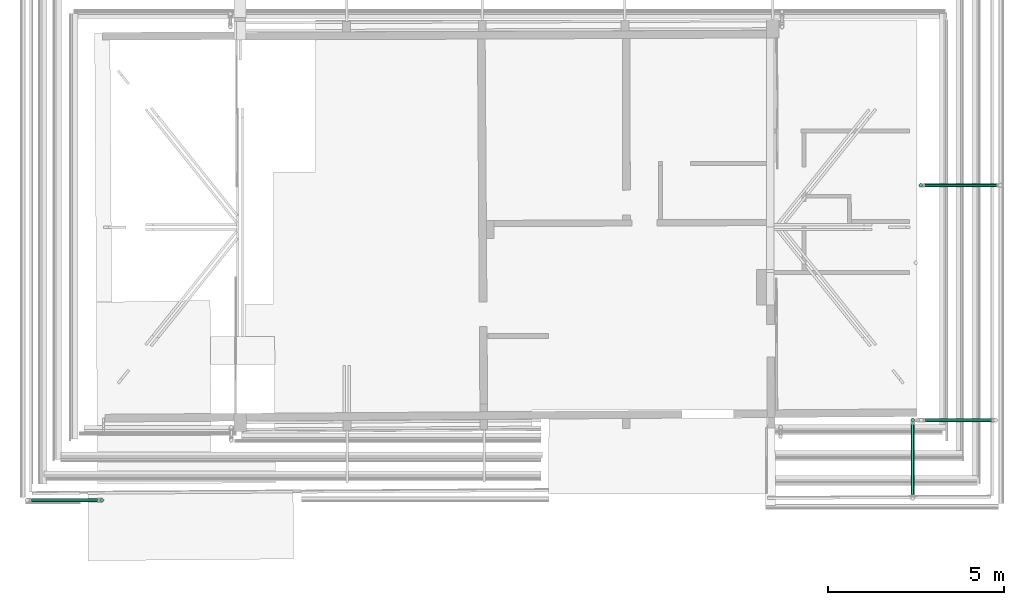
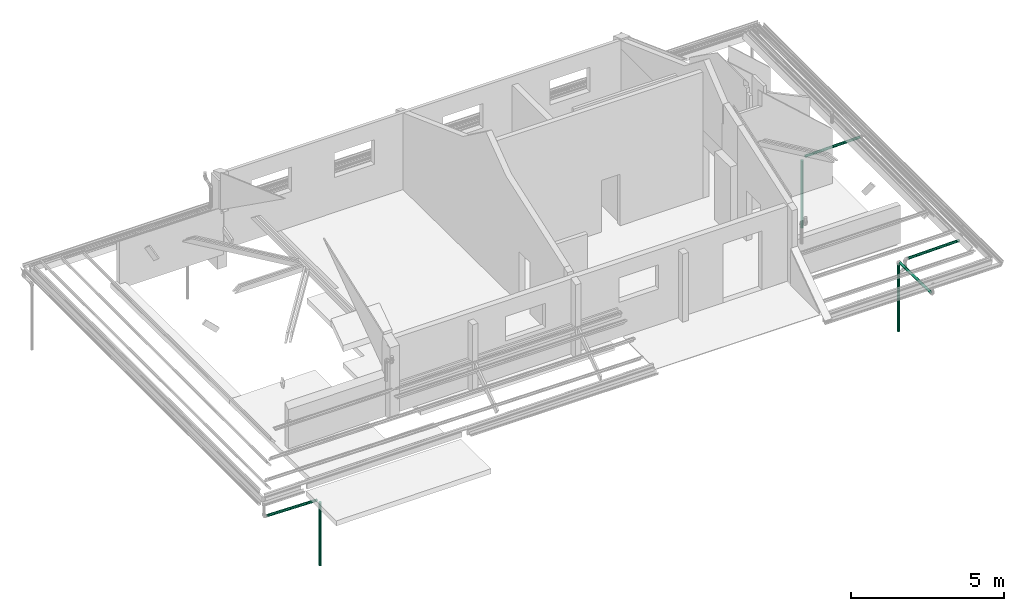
# One storey, part 10 of 15: 7 flow segments.
"""IFC2X3 building model written with IfcOpenShell, lengths in centimetres."""

from ifc_helpers import new_model, entity, si_unit, converted_unit, direction, frame, frame_2d, origin, origin_2d_with_axis, place, context, subcontext, project, spatial, circle, extrude, type_object, element, save


model = new_model("IFC2X3")

# Units and contexts
model_context = context("Model", 3, precision=0.001, world=frame((0.0, 0.0, 13090.0)), true_north=direction((6.123233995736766e-17, 1.0)))
body_context = subcontext(model_context, "Body", "Model", "MODEL_VIEW")
ifc_project = project(units=[si_unit("LENGTHUNIT", "METRE", prefix="CENTI"), si_unit("AREAUNIT", "SQUARE_METRE"), si_unit("VOLUMEUNIT", "CUBIC_METRE"), converted_unit("PLANEANGLEUNIT", "DEGREE", entity("IfcPlaneAngleMeasure", 0.017453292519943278), si_unit("PLANEANGLEUNIT", "RADIAN"), dimensions=[0, 0, 0, 0, 0, 0, 0])], contexts=[model_context])

# Site, building, storey
site_placement = place(None, origin())
site = spatial("IfcSite", under=ifc_project, at=site_placement, Name="Default", CompositionType="ELEMENT")
building_placement = place(site_placement, origin())
building = spatial("IfcBuilding", under=site, at=building_placement, Name="e 39 logements et 22 maisons relais", CompositionType="ELEMENT")
storey_placement = place(building_placement, frame((0.0, 0.0, 340.0)))
storey = spatial("IfcBuildingStorey", under=building, at=storey_placement, Name="R+1", CompositionType="ELEMENT", Elevation=339.99999999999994)

# Flow segments
pipe_segment_type = type_object("IfcPipeSegmentType", Name="Canalisation:Par défaut", PredefinedType="NOTDEFINED")
flow_segment_1_placement = place(storey_placement, origin())
element("IfcFlowSegment", 1, at=flow_segment_1_placement, inside=storey, type_object=pipe_segment_type, Name="Canalisation:Par défaut", ObjectType="Canalisation:Par défaut", context=body_context, shape_type="SweptSolid", body=[
    extrude(circle(Radius=5.0, at=frame_2d((0.0, -2.1653012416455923e-15), x_axis=(1.0, 0.0))), frame((1001.5149969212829, -584.0616728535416, -60.853480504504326), z_axis=(0.0, -0.9998000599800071, 0.019996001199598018), x_axis=(1.0, 0.0, 0.0)), (0.0, 0.0, 1.0), 199.887408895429),
])
flow_segment_2_placement = place(storey_placement, origin())
element("IfcFlowSegment", 2, at=flow_segment_2_placement, inside=storey, type_object=pipe_segment_type, Name="Canalisation:Par défaut", ObjectType="Canalisation:Par défaut", context=body_context, shape_type="SweptSolid", body=[
    extrude(circle(Radius=5.0, at=frame_2d((0.0, 1.0828671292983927e-13), x_axis=(1.0, 0.0))), frame((1001.5149969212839, -572.5218873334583, -339.0522656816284)), (0.0, 0.0, 1.0), 266.4258962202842),
])
flow_segment_3_placement = place(storey_placement, origin())
element("IfcFlowSegment", 3, at=flow_segment_3_placement, inside=storey, type_object=pipe_segment_type, Name="Canalisation:Par défaut", ObjectType="Canalisation:Par défaut", context=body_context, shape_type="SweptSolid", body=[
    extrude(circle(Radius=5.0, at=origin_2d_with_axis()), frame((-1506.3352231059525, -800.1747257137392, -57.03079571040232), z_axis=(0.9998000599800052, 0.0, -0.019996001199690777), x_axis=(0.0, -1.0, 0.0)), (0.0, 0.0, 1.0), 188.6676125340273),
])
flow_segment_4_placement = place(storey_placement, origin())
element("IfcFlowSegment", 4, at=flow_segment_4_placement, inside=storey, type_object=pipe_segment_type, Name="Canalisation:Par défaut", ObjectType="Canalisation:Par défaut", context=body_context, shape_type="SweptSolid", body=[
    extrude(circle(Radius=5.0, at=origin_2d_with_axis()), frame((-1306.1655472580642, -800.1747257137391, -324.2952227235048)), (0.0, 0.0, 1.0), 251.7189402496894),
])
flow_segment_5_placement = place(storey_placement, origin())
element("IfcFlowSegment", 5, at=flow_segment_5_placement, inside=storey, type_object=pipe_segment_type, Name="Canalisation:Par défaut", ObjectType="Canalisation:Par défaut", context=body_context, shape_type="SweptSolid", body=[
    extrude(circle(Radius=5.0, at=origin_2d_with_axis()), frame((1037.8464370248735, -572.5218873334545, -61.697818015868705), z_axis=(0.9998000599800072, 0.0, 0.01999600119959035), x_axis=(0.0, 1.0, 0.0)), (0.0, 0.0, 1.0), 192.6301856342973),
])
flow_segment_6_placement = place(storey_placement, origin())
element("IfcFlowSegment", 6, at=flow_segment_6_placement, inside=storey, type_object=pipe_segment_type, Name="Canalisation:Par défaut", ObjectType="Canalisation:Par défaut", context=body_context, shape_type="SweptSolid", body=[
    extrude(circle(Radius=5.0, at=frame_2d((1.3535839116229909e-14, 0.0), x_axis=(1.0, 0.0))), frame((1036.04643702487, 95.57811266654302, -60.393647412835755), z_axis=(0.9998000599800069, 0.0, 0.019996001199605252), x_axis=(0.0, -1.0, 0.0)), (0.0, 0.0, 1.0), 205.35790675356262),
])
flow_segment_7_placement = place(storey_placement, origin())
element("IfcFlowSegment", 7, at=flow_segment_7_placement, inside=storey, type_object=pipe_segment_type, Name="Canalisation:Par défaut", ObjectType="Canalisation:Par défaut", context=body_context, shape_type="SweptSolid", body=[
    extrude(circle(Radius=5.0, at=origin_2d_with_axis()), frame((1024.5066515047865, 95.57811266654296, -339.6496212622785)), (0.0, 0.0, 1.0), 267.48308489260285),
])

save(model, "model.ifc")
